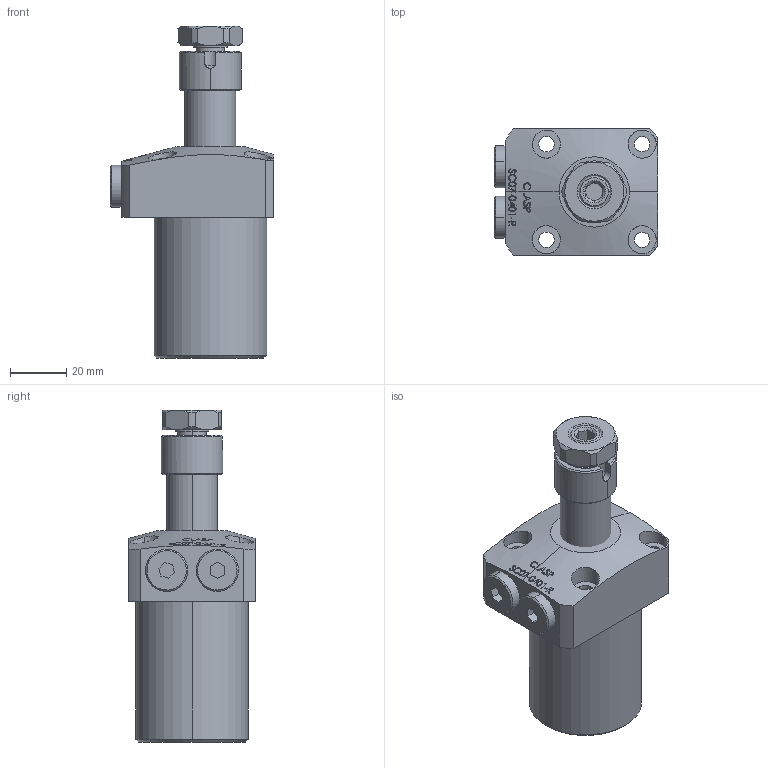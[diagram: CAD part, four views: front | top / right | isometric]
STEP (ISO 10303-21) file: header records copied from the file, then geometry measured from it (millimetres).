
FILE_DESCRIPTION (( 'STEP AP203' ), '1' );
FILE_NAME ('SC07-0401-R.STEP', '2022-07-05T17:48:44', ( '' ), ( '' ), 'SwSTEP 2.0', 'SolidWorks 2017', '' );
FILE_SCHEMA (( 'CONFIG_CONTROL_DESIGN' ));
Length unit declared in the file: millimetre
Products named in the file (6): SC-07-0401-R-05 plug; SC-07-0401-R-04 sleeve; SC07-0401-R; SC-07-0401-R-03-nut; SC-07-0401-R BODY; SC-07-0401-R-Piston
Assembly tree (6 placements, depth 2):
  SC07-0401-R
    SC-07-0401-R BODY
    SC-07-0401-R-Piston
    SC-07-0401-R-05 plug  x2
    SC-07-0401-R-04 sleeve
    SC-07-0401-R-03-nut
Bounding box: 58 x 45 x 118 mm (x, y, z)
Volume: 135586.2 mm3; surface area: 27777 mm2
Topology: 6 solids, 6 shells, 362 faces, 890 edges, 579 vertices
Faces by surface type: plane 163, bspline 86, cylinder 62, cone 50, torus 1
Entity records: 16095 total; most frequent: CARTESIAN_POINT 7910, ORIENTED_EDGE 1716, DIRECTION 1241, EDGE_CURVE 858, VERTEX_POINT 559, AXIS2_PLACEMENT_3D 428, EDGE_LOOP 397, LINE 385
